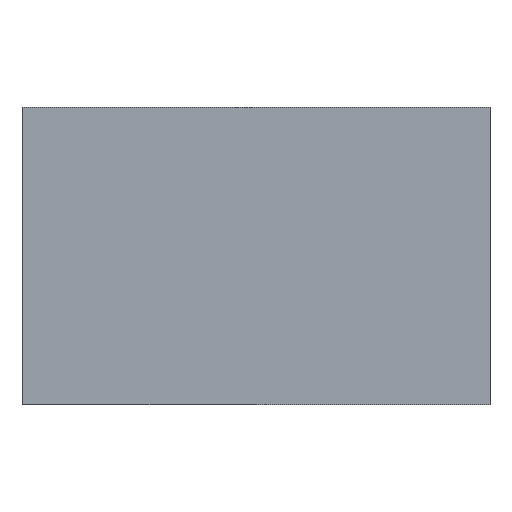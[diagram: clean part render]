
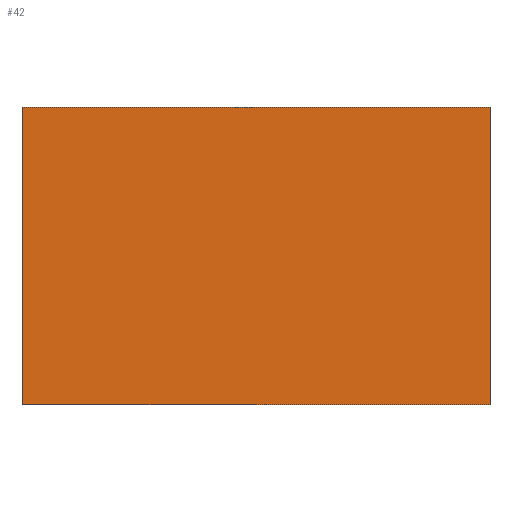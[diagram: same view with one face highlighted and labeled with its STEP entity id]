
A CAD part, top view. The second image highlights one B-rep face of the part: STEP entity #42.
In plain terms, the highlighted planar face has unit normal (0, 0, 1).
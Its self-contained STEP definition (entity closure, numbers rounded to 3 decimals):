
#42 = ADVANCED_FACE ( 'NONE', ( #1748 ), #44, .T. ) ;
#44 = PLANE ( 'NONE',  #2107 ) ;
#94 = VECTOR ( 'NONE', #1105, 1000. ) ;
#271 = CARTESIAN_POINT ( 'NONE',  ( -848., -539., 18. ) ) ;
#456 = VECTOR ( 'NONE', #590, 1000. ) ;
#534 = VECTOR ( 'NONE', #668, 1000. ) ;
#541 = EDGE_CURVE ( 'NONE', #1768, #1690, #913, .T. ) ;
#590 = DIRECTION ( 'NONE',  ( 0., 1., 0. ) ) ;
#600 = DIRECTION ( 'NONE',  ( 1., 0., 0. ) ) ;
#640 = LINE ( 'NONE', #1392, #1206 ) ;
#668 = DIRECTION ( 'NONE',  ( -1., 0., 0. ) ) ;
#692 = LINE ( 'NONE', #2231, #534 ) ;
#721 = CARTESIAN_POINT ( 'NONE',  ( -848., 539., 18. ) ) ;
#873 = ORIENTED_EDGE ( 'NONE', *, *, #1698, .T. ) ;
#913 = LINE ( 'NONE', #721, #94 ) ;
#1036 = DIRECTION ( 'NONE',  ( 0., 0., 1. ) ) ;
#1105 = DIRECTION ( 'NONE',  ( 0., -1., 0. ) ) ;
#1137 = LINE ( 'NONE', #1897, #456 ) ;
#1192 = ORIENTED_EDGE ( 'NONE', *, *, #541, .T. ) ;
#1206 = VECTOR ( 'NONE', #600, 1000. ) ;
#1342 = CARTESIAN_POINT ( 'NONE',  ( 848., -539., 18. ) ) ;
#1392 = CARTESIAN_POINT ( 'NONE',  ( -848., -539., 18. ) ) ;
#1394 = VERTEX_POINT ( 'NONE', #1468 ) ;
#1420 = EDGE_CURVE ( 'NONE', #1394, #1768, #692, .T. ) ;
#1457 = CARTESIAN_POINT ( 'NONE',  ( 0., 0., 18. ) ) ;
#1468 = CARTESIAN_POINT ( 'NONE',  ( 848., 539., 18. ) ) ;
#1590 = EDGE_CURVE ( 'NONE', #2355, #1394, #1137, .T. ) ;
#1690 = VERTEX_POINT ( 'NONE', #271 ) ;
#1698 = EDGE_CURVE ( 'NONE', #1690, #2355, #640, .T. ) ;
#1748 = FACE_OUTER_BOUND ( 'NONE', #2425, .T. ) ;
#1768 = VERTEX_POINT ( 'NONE', #1773 ) ;
#1773 = CARTESIAN_POINT ( 'NONE',  ( -848., 539., 18. ) ) ;
#1836 = ORIENTED_EDGE ( 'NONE', *, *, #1590, .T. ) ;
#1855 = DIRECTION ( 'NONE',  ( 1., 0., 0. ) ) ;
#1897 = CARTESIAN_POINT ( 'NONE',  ( 848., 539., 18. ) ) ;
#2107 = AXIS2_PLACEMENT_3D ( 'NONE', #1457, #1036, #1855 ) ;
#2231 = CARTESIAN_POINT ( 'NONE',  ( -848., 539., 18. ) ) ;
#2355 = VERTEX_POINT ( 'NONE', #1342 ) ;
#2425 = EDGE_LOOP ( 'NONE', ( #1192, #873, #1836, #2432 ) ) ;
#2432 = ORIENTED_EDGE ( 'NONE', *, *, #1420, .T. ) ;
